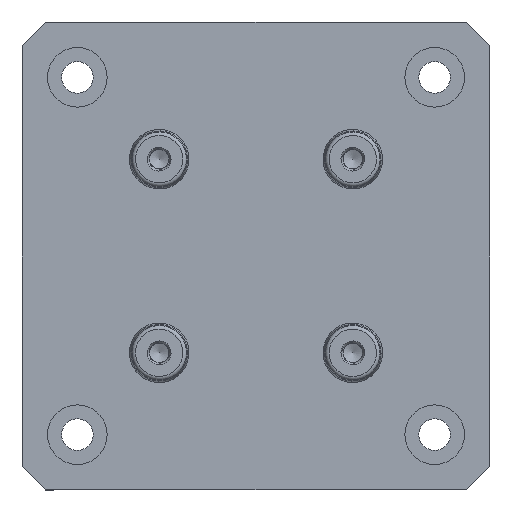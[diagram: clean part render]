
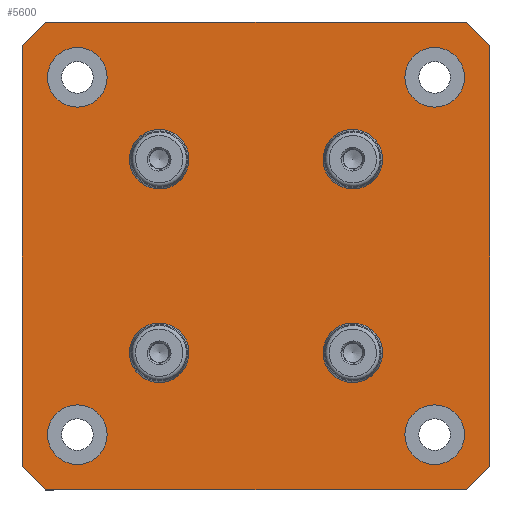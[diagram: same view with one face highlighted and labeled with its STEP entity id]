
A CAD part, front view. The second image highlights one B-rep face of the part: STEP entity #5600.
In plain terms, the highlighted planar face has unit normal (0, -1, 0).
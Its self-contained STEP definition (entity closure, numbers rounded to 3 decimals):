
#222 = LINE ( 'NONE', #4230, #4783 ) ;
#519 = CARTESIAN_POINT ( 'NONE',  ( 62.865, -6.95, 56.515 ) ) ;
#737 = DIRECTION ( 'NONE',  ( 0., 0., -1. ) ) ;
#760 = EDGE_LOOP ( 'NONE', ( #3311 ) ) ;
#764 = CARTESIAN_POINT ( 'NONE',  ( 56.515, -6.95, -62.865 ) ) ;
#792 = CARTESIAN_POINT ( 'NONE',  ( 26., -6.95, -32.008 ) ) ;
#882 = CIRCLE ( 'NONE', #4101, 8.01 ) ;
#1062 = EDGE_LOOP ( 'NONE', ( #3404 ) ) ;
#1161 = DIRECTION ( 'NONE',  ( 0., -1., 0. ) ) ;
#1171 = VERTEX_POINT ( 'NONE', #764 ) ;
#1178 = CARTESIAN_POINT ( 'NONE',  ( 48., -6.95, 39.99 ) ) ;
#1235 = DIRECTION ( 'NONE',  ( 0., 0., -1. ) ) ;
#1349 = FACE_BOUND ( 'NONE', #760, .T. ) ;
#1374 = CARTESIAN_POINT ( 'NONE',  ( 48., -6.95, -48. ) ) ;
#1410 = EDGE_LOOP ( 'NONE', ( #4905 ) ) ;
#1453 = ORIENTED_EDGE ( 'NONE', *, *, #2013, .T. ) ;
#1471 = VECTOR ( 'NONE', #4260, 1000. ) ;
#1676 = VERTEX_POINT ( 'NONE', #7182 ) ;
#1773 = AXIS2_PLACEMENT_3D ( 'NONE', #2873, #9395, #6171 ) ;
#1819 = VERTEX_POINT ( 'NONE', #5991 ) ;
#1820 = VECTOR ( 'NONE', #1976, 1000. ) ;
#1915 = VERTEX_POINT ( 'NONE', #1178 ) ;
#1976 = DIRECTION ( 'NONE',  ( 0., 0., -1. ) ) ;
#2013 = EDGE_CURVE ( 'NONE', #2943, #2603, #5131, .T. ) ;
#2039 = AXIS2_PLACEMENT_3D ( 'NONE', #2836, #5124, #8283 ) ;
#2067 = VERTEX_POINT ( 'NONE', #5260 ) ;
#2119 = ORIENTED_EDGE ( 'NONE', *, *, #2547, .F. ) ;
#2137 = ORIENTED_EDGE ( 'NONE', *, *, #8427, .F. ) ;
#2153 = EDGE_CURVE ( 'NONE', #2603, #1171, #3418, .T. ) ;
#2159 = AXIS2_PLACEMENT_3D ( 'NONE', #3130, #6314, #4170 ) ;
#2186 = FACE_BOUND ( 'NONE', #4506, .T. ) ;
#2233 = AXIS2_PLACEMENT_3D ( 'NONE', #3607, #7734, #1235 ) ;
#2292 = ORIENTED_EDGE ( 'NONE', *, *, #5071, .T. ) ;
#2293 = CARTESIAN_POINT ( 'NONE',  ( -26., -6.95, -26. ) ) ;
#2386 = ORIENTED_EDGE ( 'NONE', *, *, #8735, .F. ) ;
#2496 = CARTESIAN_POINT ( 'NONE',  ( -62.865, -6.95, -56.515 ) ) ;
#2511 = CARTESIAN_POINT ( 'NONE',  ( 59.69, -6.95, -59.69 ) ) ;
#2547 = EDGE_CURVE ( 'NONE', #1676, #1676, #9194, .T. ) ;
#2603 = VERTEX_POINT ( 'NONE', #4438 ) ;
#2668 = EDGE_CURVE ( 'NONE', #7049, #2943, #6886, .T. ) ;
#2755 = CARTESIAN_POINT ( 'NONE',  ( -62.865, -6.95, 62.865 ) ) ;
#2836 = CARTESIAN_POINT ( 'NONE',  ( 48., -6.95, 48. ) ) ;
#2873 = CARTESIAN_POINT ( 'NONE',  ( 0., -6.95, 0. ) ) ;
#2904 = CARTESIAN_POINT ( 'NONE',  ( -48., -6.95, -48. ) ) ;
#2943 = VERTEX_POINT ( 'NONE', #2496 ) ;
#2992 = FACE_BOUND ( 'NONE', #1062, .T. ) ;
#3029 = EDGE_LOOP ( 'NONE', ( #5060 ) ) ;
#3130 = CARTESIAN_POINT ( 'NONE',  ( -48., -6.95, 48. ) ) ;
#3193 = CARTESIAN_POINT ( 'NONE',  ( -26., -6.95, 19.992 ) ) ;
#3237 = DIRECTION ( 'NONE',  ( 0., 0., -1. ) ) ;
#3261 = ORIENTED_EDGE ( 'NONE', *, *, #5895, .F. ) ;
#3273 = VECTOR ( 'NONE', #5819, 1000. ) ;
#3311 = ORIENTED_EDGE ( 'NONE', *, *, #9083, .F. ) ;
#3385 = ORIENTED_EDGE ( 'NONE', *, *, #8262, .T. ) ;
#3404 = ORIENTED_EDGE ( 'NONE', *, *, #7271, .F. ) ;
#3418 = LINE ( 'NONE', #6593, #1471 ) ;
#3466 = CARTESIAN_POINT ( 'NONE',  ( -26., -6.95, 26. ) ) ;
#3474 = VECTOR ( 'NONE', #6867, 1000. ) ;
#3607 = CARTESIAN_POINT ( 'NONE',  ( 26., -6.95, -26. ) ) ;
#3609 = VECTOR ( 'NONE', #7943, 1000. ) ;
#3641 = CARTESIAN_POINT ( 'NONE',  ( -59.69, -6.95, -59.69 ) ) ;
#3834 = VERTEX_POINT ( 'NONE', #7585 ) ;
#3835 = CARTESIAN_POINT ( 'NONE',  ( -62.865, -6.95, 62.865 ) ) ;
#3837 = FACE_BOUND ( 'NONE', #6850, .T. ) ;
#3857 = DIRECTION ( 'NONE',  ( 0., -1., 0. ) ) ;
#3885 = FACE_BOUND ( 'NONE', #10237, .T. ) ;
#3941 = CIRCLE ( 'NONE', #9802, 8.01 ) ;
#4101 = AXIS2_PLACEMENT_3D ( 'NONE', #2904, #1161, #5302 ) ;
#4170 = DIRECTION ( 'NONE',  ( 0., 0., -1. ) ) ;
#4197 = LINE ( 'NONE', #2511, #6405 ) ;
#4227 = AXIS2_PLACEMENT_3D ( 'NONE', #2293, #9716, #3237 ) ;
#4230 = CARTESIAN_POINT ( 'NONE',  ( 62.865, -6.95, 62.865 ) ) ;
#4260 = DIRECTION ( 'NONE',  ( 1., 0., 0. ) ) ;
#4403 = EDGE_CURVE ( 'NONE', #9976, #3834, #7467, .T. ) ;
#4438 = CARTESIAN_POINT ( 'NONE',  ( -56.515, -6.95, -62.865 ) ) ;
#4506 = EDGE_LOOP ( 'NONE', ( #2119 ) ) ;
#4541 = FACE_BOUND ( 'NONE', #10032, .T. ) ;
#4595 = DIRECTION ( 'NONE',  ( -1., 0., 0. ) ) ;
#4739 = LINE ( 'NONE', #10275, #3609 ) ;
#4783 = VECTOR ( 'NONE', #6624, 1000. ) ;
#4905 = ORIENTED_EDGE ( 'NONE', *, *, #8901, .F. ) ;
#5060 = ORIENTED_EDGE ( 'NONE', *, *, #7522, .F. ) ;
#5071 = EDGE_CURVE ( 'NONE', #7619, #9976, #222, .T. ) ;
#5124 = DIRECTION ( 'NONE',  ( 0., -1., 0. ) ) ;
#5131 = LINE ( 'NONE', #3641, #3474 ) ;
#5260 = CARTESIAN_POINT ( 'NONE',  ( -48., -6.95, -56.01 ) ) ;
#5270 = FACE_BOUND ( 'NONE', #1410, .T. ) ;
#5302 = DIRECTION ( 'NONE',  ( 0., 0., -1. ) ) ;
#5312 = ORIENTED_EDGE ( 'NONE', *, *, #9703, .T. ) ;
#5416 = ORIENTED_EDGE ( 'NONE', *, *, #8612, .T. ) ;
#5452 = VERTEX_POINT ( 'NONE', #7145 ) ;
#5575 = VERTEX_POINT ( 'NONE', #3193 ) ;
#5600 = ADVANCED_FACE ( 'NONE', ( #2186, #5270, #1349, #3885, #3837, #4541, #2992, #7738, #6846 ), #10076, .T. ) ;
#5602 = VERTEX_POINT ( 'NONE', #7831 ) ;
#5667 = DIRECTION ( 'NONE',  ( 0., -1., 0. ) ) ;
#5807 = ORIENTED_EDGE ( 'NONE', *, *, #2153, .T. ) ;
#5819 = DIRECTION ( 'NONE',  ( -0.707, 0., 0.707 ) ) ;
#5873 = CARTESIAN_POINT ( 'NONE',  ( -62.865, -6.95, 56.515 ) ) ;
#5895 = EDGE_CURVE ( 'NONE', #5575, #5575, #7818, .T. ) ;
#5991 = CARTESIAN_POINT ( 'NONE',  ( -26., -6.95, -32.008 ) ) ;
#6059 = ORIENTED_EDGE ( 'NONE', *, *, #2668, .T. ) ;
#6125 = DIRECTION ( 'NONE',  ( 0., 0., -1. ) ) ;
#6171 = DIRECTION ( 'NONE',  ( 0., 0., -1. ) ) ;
#6229 = CIRCLE ( 'NONE', #2039, 8.01 ) ;
#6314 = DIRECTION ( 'NONE',  ( 0., -1., 0. ) ) ;
#6405 = VECTOR ( 'NONE', #6583, 1000. ) ;
#6583 = DIRECTION ( 'NONE',  ( 0.707, 0., 0.707 ) ) ;
#6593 = CARTESIAN_POINT ( 'NONE',  ( -62.865, -6.95, -62.865 ) ) ;
#6624 = DIRECTION ( 'NONE',  ( 0., 0., 1. ) ) ;
#6738 = CIRCLE ( 'NONE', #2233, 6.008 ) ;
#6846 = FACE_OUTER_BOUND ( 'NONE', #8544, .T. ) ;
#6850 = EDGE_LOOP ( 'NONE', ( #2386 ) ) ;
#6867 = DIRECTION ( 'NONE',  ( 0.707, 0., -0.707 ) ) ;
#6886 = LINE ( 'NONE', #2755, #1820 ) ;
#6912 = CIRCLE ( 'NONE', #7752, 6.008 ) ;
#7049 = VERTEX_POINT ( 'NONE', #5873 ) ;
#7074 = CARTESIAN_POINT ( 'NONE',  ( -56.515, -6.95, 62.865 ) ) ;
#7088 = VERTEX_POINT ( 'NONE', #792 ) ;
#7145 = CARTESIAN_POINT ( 'NONE',  ( 48., -6.95, -56.01 ) ) ;
#7182 = CARTESIAN_POINT ( 'NONE',  ( -48., -6.95, 39.99 ) ) ;
#7271 = EDGE_CURVE ( 'NONE', #1819, #1819, #9430, .T. ) ;
#7409 = VECTOR ( 'NONE', #4595, 1000. ) ;
#7467 = LINE ( 'NONE', #8203, #3273 ) ;
#7498 = CARTESIAN_POINT ( 'NONE',  ( 62.865, -6.95, -56.515 ) ) ;
#7522 = EDGE_CURVE ( 'NONE', #1915, #1915, #6229, .T. ) ;
#7585 = CARTESIAN_POINT ( 'NONE',  ( 56.515, -6.95, 62.865 ) ) ;
#7619 = VERTEX_POINT ( 'NONE', #7498 ) ;
#7734 = DIRECTION ( 'NONE',  ( 0., -1., 0. ) ) ;
#7738 = FACE_BOUND ( 'NONE', #3029, .T. ) ;
#7752 = AXIS2_PLACEMENT_3D ( 'NONE', #9024, #5667, #8144 ) ;
#7818 = CIRCLE ( 'NONE', #9527, 6.008 ) ;
#7831 = CARTESIAN_POINT ( 'NONE',  ( 26., -6.95, 19.992 ) ) ;
#7943 = DIRECTION ( 'NONE',  ( -0.707, 0., -0.707 ) ) ;
#8144 = DIRECTION ( 'NONE',  ( 0., 0., -1. ) ) ;
#8203 = CARTESIAN_POINT ( 'NONE',  ( 59.69, -6.95, 59.69 ) ) ;
#8262 = EDGE_CURVE ( 'NONE', #1171, #7619, #4197, .T. ) ;
#8283 = DIRECTION ( 'NONE',  ( 0., 0., -1. ) ) ;
#8427 = EDGE_CURVE ( 'NONE', #7088, #7088, #6738, .T. ) ;
#8544 = EDGE_LOOP ( 'NONE', ( #6059, #1453, #5807, #3385, #2292, #8700, #5416, #5312 ) ) ;
#8585 = LINE ( 'NONE', #3835, #7409 ) ;
#8612 = EDGE_CURVE ( 'NONE', #3834, #9288, #8585, .T. ) ;
#8700 = ORIENTED_EDGE ( 'NONE', *, *, #4403, .T. ) ;
#8735 = EDGE_CURVE ( 'NONE', #5602, #5602, #6912, .T. ) ;
#8901 = EDGE_CURVE ( 'NONE', #2067, #2067, #882, .T. ) ;
#9024 = CARTESIAN_POINT ( 'NONE',  ( 26., -6.95, 26. ) ) ;
#9083 = EDGE_CURVE ( 'NONE', #5452, #5452, #3941, .T. ) ;
#9194 = CIRCLE ( 'NONE', #2159, 8.01 ) ;
#9288 = VERTEX_POINT ( 'NONE', #7074 ) ;
#9395 = DIRECTION ( 'NONE',  ( 0., -1., 0. ) ) ;
#9430 = CIRCLE ( 'NONE', #4227, 6.008 ) ;
#9516 = DIRECTION ( 'NONE',  ( 0., -1., 0. ) ) ;
#9527 = AXIS2_PLACEMENT_3D ( 'NONE', #3466, #9516, #6125 ) ;
#9703 = EDGE_CURVE ( 'NONE', #9288, #7049, #4739, .T. ) ;
#9716 = DIRECTION ( 'NONE',  ( 0., -1., 0. ) ) ;
#9802 = AXIS2_PLACEMENT_3D ( 'NONE', #1374, #3857, #737 ) ;
#9976 = VERTEX_POINT ( 'NONE', #519 ) ;
#10032 = EDGE_LOOP ( 'NONE', ( #2137 ) ) ;
#10076 = PLANE ( 'NONE',  #1773 ) ;
#10237 = EDGE_LOOP ( 'NONE', ( #3261 ) ) ;
#10275 = CARTESIAN_POINT ( 'NONE',  ( -59.69, -6.95, 59.69 ) ) ;
